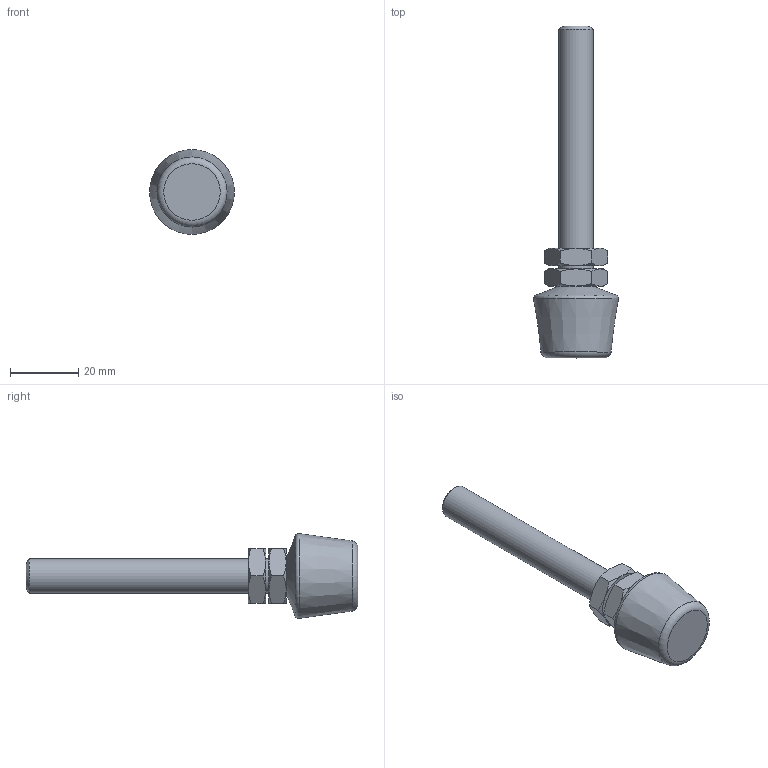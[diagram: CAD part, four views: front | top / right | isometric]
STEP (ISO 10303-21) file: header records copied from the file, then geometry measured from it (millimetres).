
FILE_DESCRIPTION( ( 'STEP AP203' ), '1' );
FILE_NAME( 'C:/Temp/Ganter_Step_05_03_2020/data/2_4/gn_708_1/gn_708_1_st/Clamping bolt GN 708.1-M10-97-A-ST (0).stp', '2020-03-13T05:51:08', ( 'License CC BY-ND 4.0' ), ( 'CADENAS' ), ' ', 'PARTsolutions', ' ' );
FILE_SCHEMA( ( 'CONFIG_CONTROL_DESIGN' ) );
Length unit declared in the file: millimetre
Products named in the file (3): Clamping bolt GN 708.1-M10-97-A-ST (0); _Andrueckschraube GN 708.1-M10-97-A-ST (0)-1; _Andrueckschraube GN 708.1-M10-97-A-ST2
Assembly tree (3 placements, depth 2):
  Clamping bolt GN 708.1-M10-97-A-ST (0)
    _Andrueckschraube GN 708.1-M10-97-A-ST (0)-1
    _Andrueckschraube GN 708.1-M10-97-A-ST2  x2
Bounding box: 24.8 x 97 x 24.8 mm (x, y, z)
Volume: 15473.1 mm3; surface area: 5827.2 mm2
Topology: 3 solids, 3 shells, 54 faces, 111 edges, 63 vertices
Faces by surface type: cone 31, plane 18, cylinder 3, torus 2
Full cylindrical faces by diameter (mm): 8.376 x2, 10 x1
Entity records: 954 total; most frequent: CARTESIAN_POINT 260, DIRECTION 122, ORIENTED_EDGE 106, AXIS2_PLACEMENT_3D 58, EDGE_CURVE 53, EDGE_LOOP 42, VERTEX_POINT 36, FACE_OUTER_BOUND 35
